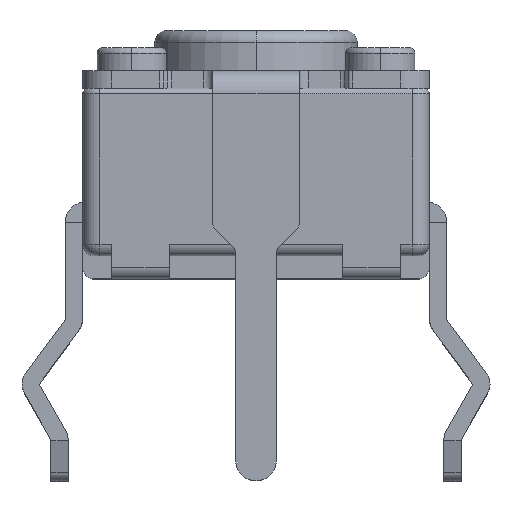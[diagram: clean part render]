
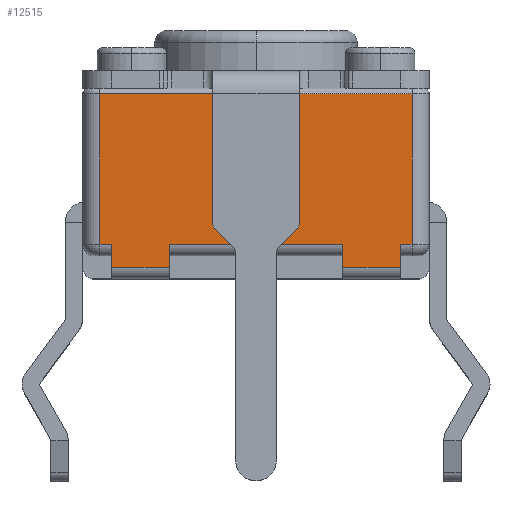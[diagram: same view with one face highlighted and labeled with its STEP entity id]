
A CAD part, top view. The second image highlights one B-rep face of the part: STEP entity #12515.
In plain terms, the highlighted planar face has unit normal (0, 0, 1).
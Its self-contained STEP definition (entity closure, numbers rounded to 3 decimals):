
#9472 = DIRECTION ( 'NONE',  ( 1., 0., 0. ) ) ;
#9655 = PLANE ( 'NONE',  #9727 ) ;
#9725 = DIRECTION ( 'NONE',  ( 0., 0., -1. ) ) ;
#9726 = CARTESIAN_POINT ( 'NONE',  ( 0., 3.3, 3. ) ) ;
#9727 = AXIS2_PLACEMENT_3D ( 'NONE', #9726, #9725, #9472 ) ;
#9729 = DIRECTION ( 'NONE',  ( 0., -1., 0. ) ) ;
#9732 = FACE_OUTER_BOUND ( 'NONE', #12516, .T. ) ;
#9741 = VECTOR ( 'NONE', #9729, 1000. ) ;
#9742 = CARTESIAN_POINT ( 'NONE',  ( 1.5, 0.4, 3. ) ) ;
#9743 = LINE ( 'NONE', #9742, #9741 ) ;
#9748 = CARTESIAN_POINT ( 'NONE',  ( 0., 0.6, 3. ) ) ;
#9749 = LINE ( 'NONE', #9748, #9815 ) ;
#9752 = DIRECTION ( 'NONE',  ( -1., 0., 0. ) ) ;
#9753 = CARTESIAN_POINT ( 'NONE',  ( 2.7, 0.6, 3. ) ) ;
#9754 = CARTESIAN_POINT ( 'NONE',  ( 1.5, 0.2, 3. ) ) ;
#9758 = CARTESIAN_POINT ( 'NONE',  ( 0., 0.2, 3. ) ) ;
#9759 = LINE ( 'NONE', #9758, #9775 ) ;
#9760 = DIRECTION ( 'NONE',  ( 0., -1., 0. ) ) ;
#9761 = VECTOR ( 'NONE', #9760, 1000. ) ;
#9762 = CARTESIAN_POINT ( 'NONE',  ( 2.5, 0.4, 3. ) ) ;
#9763 = LINE ( 'NONE', #9762, #9761 ) ;
#9765 = CARTESIAN_POINT ( 'NONE',  ( 2.5, 0.2, 3. ) ) ;
#9770 = CARTESIAN_POINT ( 'NONE',  ( 2.5, 0.6, 3. ) ) ;
#9773 = CARTESIAN_POINT ( 'NONE',  ( 1.5, 0.6, 3. ) ) ;
#9775 = VECTOR ( 'NONE', #9752, 1000. ) ;
#9777 = CARTESIAN_POINT ( 'NONE',  ( -2.7, 3.2, 3. ) ) ;
#9803 = CARTESIAN_POINT ( 'NONE',  ( -2.5, 0.2, 3. ) ) ;
#9805 = DIRECTION ( 'NONE',  ( 1., 0., 0. ) ) ;
#9809 = VECTOR ( 'NONE', #9805, 1000. ) ;
#9812 = CARTESIAN_POINT ( 'NONE',  ( 0., 0.2, 3. ) ) ;
#9813 = LINE ( 'NONE', #9812, #9809 ) ;
#9814 = DIRECTION ( 'NONE',  ( -1., 0., 0. ) ) ;
#9815 = VECTOR ( 'NONE', #9814, 1000. ) ;
#9817 = DIRECTION ( 'NONE',  ( 0., -1., 0. ) ) ;
#9818 = VECTOR ( 'NONE', #9817, 1000. ) ;
#9820 = VECTOR ( 'NONE', #9884, 1000. ) ;
#9821 = LINE ( 'NONE', #9824, #9818 ) ;
#9824 = CARTESIAN_POINT ( 'NONE',  ( -1.5, 0.4, 3. ) ) ;
#9850 = CARTESIAN_POINT ( 'NONE',  ( -2.7, 0.6, 3. ) ) ;
#9871 = DIRECTION ( 'NONE',  ( 0., -1., 0. ) ) ;
#9872 = VECTOR ( 'NONE', #9871, 1000. ) ;
#9873 = CARTESIAN_POINT ( 'NONE',  ( 2.7, 3.3, 3. ) ) ;
#9876 = LINE ( 'NONE', #9873, #9872 ) ;
#9882 = CARTESIAN_POINT ( 'NONE',  ( -2.5, 0.4, 3. ) ) ;
#9884 = DIRECTION ( 'NONE',  ( 1., 0., 0. ) ) ;
#9885 = VECTOR ( 'NONE', #9937, 1000. ) ;
#9890 = LINE ( 'NONE', #9882, #9885 ) ;
#9893 = LINE ( 'NONE', #9971, #9970 ) ;
#9900 = CARTESIAN_POINT ( 'NONE',  ( 0., 3.2, 3. ) ) ;
#9901 = LINE ( 'NONE', #9900, #9820 ) ;
#9911 = CARTESIAN_POINT ( 'NONE',  ( -1.5, 0.6, 3. ) ) ;
#9914 = DIRECTION ( 'NONE',  ( 0., -1., 0. ) ) ;
#9915 = VECTOR ( 'NONE', #9914, 1000. ) ;
#9916 = CARTESIAN_POINT ( 'NONE',  ( -2.7, 3.3, 3. ) ) ;
#9917 = CARTESIAN_POINT ( 'NONE',  ( 2.7, 3.2, 3. ) ) ;
#9918 = LINE ( 'NONE', #9916, #9915 ) ;
#9919 = CARTESIAN_POINT ( 'NONE',  ( -2.5, 0.6, 3. ) ) ;
#9937 = DIRECTION ( 'NONE',  ( 0., -1., 0. ) ) ;
#9964 = DIRECTION ( 'NONE',  ( -1., 0., 0. ) ) ;
#9965 = VECTOR ( 'NONE', #9964, 1000. ) ;
#9969 = DIRECTION ( 'NONE',  ( 1., 0., 0. ) ) ;
#9970 = VECTOR ( 'NONE', #9969, 1000. ) ;
#9971 = CARTESIAN_POINT ( 'NONE',  ( 0., 0.6, 3. ) ) ;
#9975 = CARTESIAN_POINT ( 'NONE',  ( 0., 0.6, 3. ) ) ;
#9976 = LINE ( 'NONE', #9975, #9965 ) ;
#9977 = CARTESIAN_POINT ( 'NONE',  ( -1.5, 0.2, 3. ) ) ;
#12511 = ORIENTED_EDGE ( 'NONE', *, *, #12529, .F. ) ;
#12512 = EDGE_CURVE ( 'NONE', #12527, #12534, #9743, .T. ) ;
#12515 = ADVANCED_FACE ( 'NONE', ( #9732 ), #9655, .F. ) ;
#12516 = EDGE_LOOP ( 'NONE', ( #12530, #12511, #12536, #12531, #12526, #12573, #12576, #12557, #12542, #12565, #12582, #12538 ) ) ;
#12523 = VERTEX_POINT ( 'NONE', #9770 ) ;
#12524 = EDGE_CURVE ( 'NONE', #12523, #12525, #9763, .T. ) ;
#12525 = VERTEX_POINT ( 'NONE', #9765 ) ;
#12526 = ORIENTED_EDGE ( 'NONE', *, *, #12551, .F. ) ;
#12527 = VERTEX_POINT ( 'NONE', #9773 ) ;
#12528 = VERTEX_POINT ( 'NONE', #9777 ) ;
#12529 = EDGE_CURVE ( 'NONE', #12525, #12534, #9759, .T. ) ;
#12530 = ORIENTED_EDGE ( 'NONE', *, *, #12512, .T. ) ;
#12531 = ORIENTED_EDGE ( 'NONE', *, *, #12533, .F. ) ;
#12533 = EDGE_CURVE ( 'NONE', #12535, #12523, #9749, .T. ) ;
#12534 = VERTEX_POINT ( 'NONE', #9754 ) ;
#12535 = VERTEX_POINT ( 'NONE', #9753 ) ;
#12536 = ORIENTED_EDGE ( 'NONE', *, *, #12524, .F. ) ;
#12538 = ORIENTED_EDGE ( 'NONE', *, *, #12585, .F. ) ;
#12539 = EDGE_CURVE ( 'NONE', #12543, #12579, #9813, .T. ) ;
#12542 = ORIENTED_EDGE ( 'NONE', *, *, #12571, .T. ) ;
#12543 = VERTEX_POINT ( 'NONE', #9803 ) ;
#12546 = EDGE_CURVE ( 'NONE', #12564, #12579, #9821, .T. ) ;
#12551 = EDGE_CURVE ( 'NONE', #12577, #12535, #9876, .T. ) ;
#12557 = ORIENTED_EDGE ( 'NONE', *, *, #12581, .T. ) ;
#12564 = VERTEX_POINT ( 'NONE', #9911 ) ;
#12565 = ORIENTED_EDGE ( 'NONE', *, *, #12539, .T. ) ;
#12566 = VERTEX_POINT ( 'NONE', #9850 ) ;
#12568 = EDGE_CURVE ( 'NONE', #12528, #12577, #9901, .T. ) ;
#12571 = EDGE_CURVE ( 'NONE', #12580, #12543, #9890, .T. ) ;
#12573 = ORIENTED_EDGE ( 'NONE', *, *, #12568, .F. ) ;
#12574 = EDGE_CURVE ( 'NONE', #12528, #12566, #9918, .T. ) ;
#12576 = ORIENTED_EDGE ( 'NONE', *, *, #12574, .T. ) ;
#12577 = VERTEX_POINT ( 'NONE', #9917 ) ;
#12579 = VERTEX_POINT ( 'NONE', #9977 ) ;
#12580 = VERTEX_POINT ( 'NONE', #9919 ) ;
#12581 = EDGE_CURVE ( 'NONE', #12566, #12580, #9893, .T. ) ;
#12582 = ORIENTED_EDGE ( 'NONE', *, *, #12546, .F. ) ;
#12585 = EDGE_CURVE ( 'NONE', #12527, #12564, #9976, .T. ) ;
